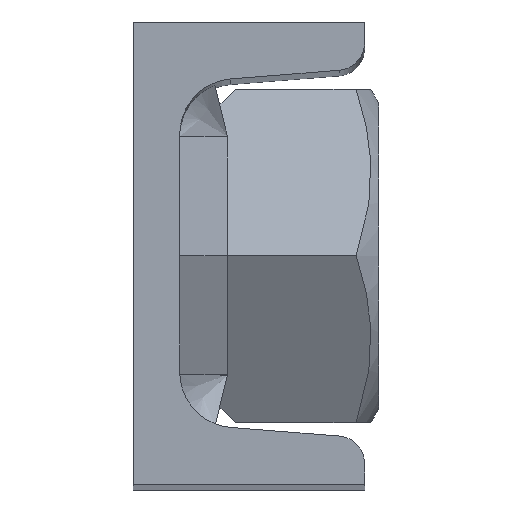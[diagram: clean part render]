
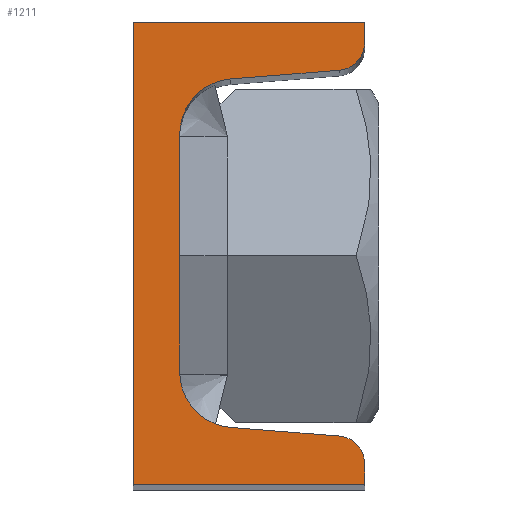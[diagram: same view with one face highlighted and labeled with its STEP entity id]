
A CAD part, top view. The second image highlights one B-rep face of the part: STEP entity #1211.
In plain terms, the highlighted planar face has unit normal (0, 0, 1).
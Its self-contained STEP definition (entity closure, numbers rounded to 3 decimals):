
#115=CIRCLE('',#1310,3.);
#116=CIRCLE('',#1313,6.);
#117=CIRCLE('',#1315,6.);
#118=CIRCLE('',#1318,3.);
#206=FACE_OUTER_BOUND('',#297,.T.);
#297=EDGE_LOOP('',(#1024,#1025,#1026,#1027,#1028,#1029,#1030,#1031,#1032,
#1033,#1034,#1035));
#379=LINE('',#2001,#471);
#391=LINE('',#2034,#483);
#394=LINE('',#2039,#486);
#397=LINE('',#2047,#489);
#400=LINE('',#2057,#492);
#403=LINE('',#2065,#495);
#405=LINE('',#2069,#497);
#407=LINE('',#2072,#499);
#471=VECTOR('',#1536,25.722);
#483=VECTOR('',#1562,25.);
#486=VECTOR('',#1567,2.23);
#489=VECTOR('',#1576,11.755);
#492=VECTOR('',#1589,11.755);
#495=VECTOR('',#1598,2.23);
#497=VECTOR('',#1602,25.);
#499=VECTOR('',#1606,50.);
#575=VERTEX_POINT('',#1998);
#576=VERTEX_POINT('',#2000);
#589=VERTEX_POINT('',#2032);
#590=VERTEX_POINT('',#2033);
#591=VERTEX_POINT('',#2038);
#592=VERTEX_POINT('',#2042);
#593=VERTEX_POINT('',#2046);
#594=VERTEX_POINT('',#2052);
#595=VERTEX_POINT('',#2056);
#596=VERTEX_POINT('',#2060);
#597=VERTEX_POINT('',#2064);
#598=VERTEX_POINT('',#2068);
#713=EDGE_CURVE('',#575,#576,#379,.T.);
#729=EDGE_CURVE('',#589,#590,#391,.T.);
#732=EDGE_CURVE('',#590,#591,#394,.T.);
#734=EDGE_CURVE('',#591,#592,#115,.T.);
#736=EDGE_CURVE('',#592,#593,#397,.T.);
#738=EDGE_CURVE('',#593,#575,#116,.T.);
#739=EDGE_CURVE('',#576,#594,#117,.T.);
#741=EDGE_CURVE('',#594,#595,#400,.T.);
#743=EDGE_CURVE('',#595,#596,#118,.T.);
#745=EDGE_CURVE('',#596,#597,#403,.T.);
#747=EDGE_CURVE('',#597,#598,#405,.T.);
#749=EDGE_CURVE('',#598,#589,#407,.T.);
#1024=ORIENTED_EDGE('',*,*,#729,.F.);
#1025=ORIENTED_EDGE('',*,*,#749,.F.);
#1026=ORIENTED_EDGE('',*,*,#747,.F.);
#1027=ORIENTED_EDGE('',*,*,#745,.F.);
#1028=ORIENTED_EDGE('',*,*,#743,.F.);
#1029=ORIENTED_EDGE('',*,*,#741,.F.);
#1030=ORIENTED_EDGE('',*,*,#739,.F.);
#1031=ORIENTED_EDGE('',*,*,#713,.F.);
#1032=ORIENTED_EDGE('',*,*,#738,.F.);
#1033=ORIENTED_EDGE('',*,*,#736,.F.);
#1034=ORIENTED_EDGE('',*,*,#734,.F.);
#1035=ORIENTED_EDGE('',*,*,#732,.F.);
#1147=PLANE('',#1322);
#1211=ADVANCED_FACE('',(#206),#1147,.T.);
#1310=AXIS2_PLACEMENT_3D('',#2043,#1571,#1572);
#1313=AXIS2_PLACEMENT_3D('',#2050,#1580,#1581);
#1315=AXIS2_PLACEMENT_3D('',#2053,#1584,#1585);
#1318=AXIS2_PLACEMENT_3D('',#2061,#1593,#1594);
#1322=AXIS2_PLACEMENT_3D('',#2073,#1607,#1608);
#1536=DIRECTION('',(0.,-1.,0.));
#1562=DIRECTION('',(1.,0.,0.));
#1567=DIRECTION('',(0.,-1.,0.));
#1571=DIRECTION('center_axis',(0.,0.,-1.));
#1572=DIRECTION('ref_axis',(-0.08,0.997,0.));
#1576=DIRECTION('',(-0.997,-0.08,0.));
#1580=DIRECTION('center_axis',(0.,0.,1.));
#1581=DIRECTION('ref_axis',(-0.08,0.997,0.));
#1584=DIRECTION('center_axis',(0.,0.,1.));
#1585=DIRECTION('ref_axis',(-1.,0.,0.));
#1589=DIRECTION('',(0.997,-0.08,0.));
#1593=DIRECTION('center_axis',(0.,0.,-1.));
#1594=DIRECTION('ref_axis',(-1.,0.,0.));
#1598=DIRECTION('',(0.,-1.,0.));
#1602=DIRECTION('',(-1.,0.,0.));
#1606=DIRECTION('',(0.,1.,0.));
#1607=DIRECTION('center_axis',(0.,0.,1.));
#1608=DIRECTION('ref_axis',(1.,0.,0.));
#1998=CARTESIAN_POINT('',(5.,12.861,175.));
#2000=CARTESIAN_POINT('',(5.,-12.861,175.));
#2001=CARTESIAN_POINT('',(5.,0.,175.));
#2032=CARTESIAN_POINT('',(0.,25.,175.));
#2033=CARTESIAN_POINT('',(25.,25.,175.));
#2034=CARTESIAN_POINT('',(0.,25.,175.));
#2038=CARTESIAN_POINT('',(25.,22.77,175.));
#2039=CARTESIAN_POINT('',(25.,25.,175.));
#2042=CARTESIAN_POINT('',(22.239,19.779,175.));
#2043=CARTESIAN_POINT('Origin',(22.,22.77,175.));
#2046=CARTESIAN_POINT('',(10.522,18.842,175.));
#2047=CARTESIAN_POINT('',(22.239,19.779,175.));
#2050=CARTESIAN_POINT('Origin',(11.,12.861,175.));
#2052=CARTESIAN_POINT('',(10.522,-18.842,175.));
#2053=CARTESIAN_POINT('Origin',(11.,-12.861,175.));
#2056=CARTESIAN_POINT('',(22.239,-19.779,175.));
#2057=CARTESIAN_POINT('',(10.522,-18.842,175.));
#2060=CARTESIAN_POINT('',(25.,-22.77,175.));
#2061=CARTESIAN_POINT('Origin',(22.,-22.77,175.));
#2064=CARTESIAN_POINT('',(25.,-25.,175.));
#2065=CARTESIAN_POINT('',(25.,-22.77,175.));
#2068=CARTESIAN_POINT('',(0.,-25.,175.));
#2069=CARTESIAN_POINT('',(25.,-25.,175.));
#2072=CARTESIAN_POINT('',(0.,0.,175.));
#2073=CARTESIAN_POINT('Origin',(8.813,0.,175.));
